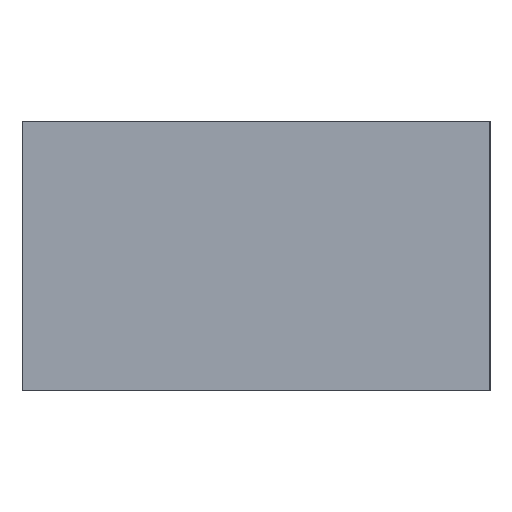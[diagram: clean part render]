
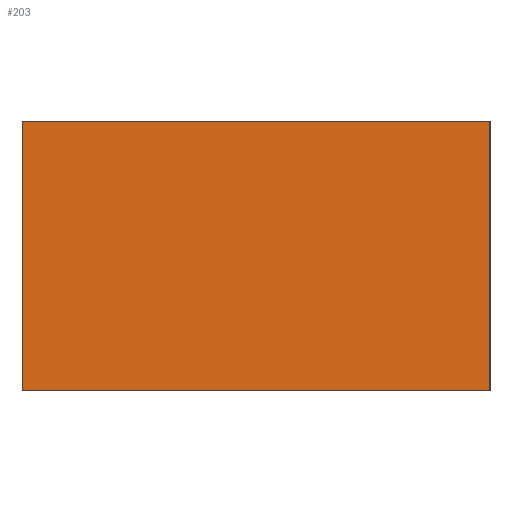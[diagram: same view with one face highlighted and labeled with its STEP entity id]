
A CAD part, front view. The second image highlights one B-rep face of the part: STEP entity #203.
In plain terms, the highlighted planar face has unit normal (0, -1, 0).
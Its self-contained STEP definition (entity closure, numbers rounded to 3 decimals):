
#15 = CARTESIAN_POINT ( 'NONE',  ( -0.007, -50.032, -10. ) ) ;
#31 = LINE ( 'NONE', #331, #126 ) ;
#60 = EDGE_CURVE ( 'NONE', #389, #295, #94, .T. ) ;
#66 = EDGE_CURVE ( 'NONE', #389, #202, #297, .T. ) ;
#78 = AXIS2_PLACEMENT_3D ( 'NONE', #15, #158, #258 ) ;
#82 = VECTOR ( 'NONE', #338, 1000. ) ;
#86 = EDGE_LOOP ( 'NONE', ( #245, #237, #113, #122 ) ) ;
#89 = EDGE_CURVE ( 'NONE', #202, #267, #31, .T. ) ;
#94 = LINE ( 'NONE', #117, #82 ) ;
#113 = ORIENTED_EDGE ( 'NONE', *, *, #60, .T. ) ;
#117 = CARTESIAN_POINT ( 'NONE',  ( -0.007, -50.032, -10. ) ) ;
#122 = ORIENTED_EDGE ( 'NONE', *, *, #377, .T. ) ;
#126 = VECTOR ( 'NONE', #257, 1000. ) ;
#135 = FACE_OUTER_BOUND ( 'NONE', #86, .T. ) ;
#158 = DIRECTION ( 'NONE',  ( 0., -1., 0. ) ) ;
#191 = PLANE ( 'NONE',  #78 ) ;
#202 = VERTEX_POINT ( 'NONE', #259 ) ;
#203 = ADVANCED_FACE ( 'NONE', ( #135 ), #191, .T. ) ;
#206 = CARTESIAN_POINT ( 'NONE',  ( 1.959, -50.032, -10. ) ) ;
#211 = DIRECTION ( 'NONE',  ( 0., 0., 1. ) ) ;
#229 = CARTESIAN_POINT ( 'NONE',  ( 19.268, -50.035, 0. ) ) ;
#237 = ORIENTED_EDGE ( 'NONE', *, *, #66, .F. ) ;
#244 = CARTESIAN_POINT ( 'NONE',  ( 19.268, -50.035, -10. ) ) ;
#245 = ORIENTED_EDGE ( 'NONE', *, *, #89, .F. ) ;
#257 = DIRECTION ( 'NONE',  ( 1., 0., 0. ) ) ;
#258 = DIRECTION ( 'NONE',  ( 1., 0., 0. ) ) ;
#259 = CARTESIAN_POINT ( 'NONE',  ( 1.959, -50.032, 0. ) ) ;
#267 = VERTEX_POINT ( 'NONE', #229 ) ;
#269 = CARTESIAN_POINT ( 'NONE',  ( 1.959, -50.032, -10. ) ) ;
#279 = LINE ( 'NONE', #376, #346 ) ;
#295 = VERTEX_POINT ( 'NONE', #244 ) ;
#297 = LINE ( 'NONE', #269, #313 ) ;
#304 = DIRECTION ( 'NONE',  ( 0., 0., 1. ) ) ;
#313 = VECTOR ( 'NONE', #304, 1000. ) ;
#331 = CARTESIAN_POINT ( 'NONE',  ( -0.007, -50.032, 0. ) ) ;
#338 = DIRECTION ( 'NONE',  ( 1., 0., 0. ) ) ;
#346 = VECTOR ( 'NONE', #211, 1000. ) ;
#376 = CARTESIAN_POINT ( 'NONE',  ( 19.268, -50.035, -10. ) ) ;
#377 = EDGE_CURVE ( 'NONE', #295, #267, #279, .T. ) ;
#389 = VERTEX_POINT ( 'NONE', #206 ) ;
